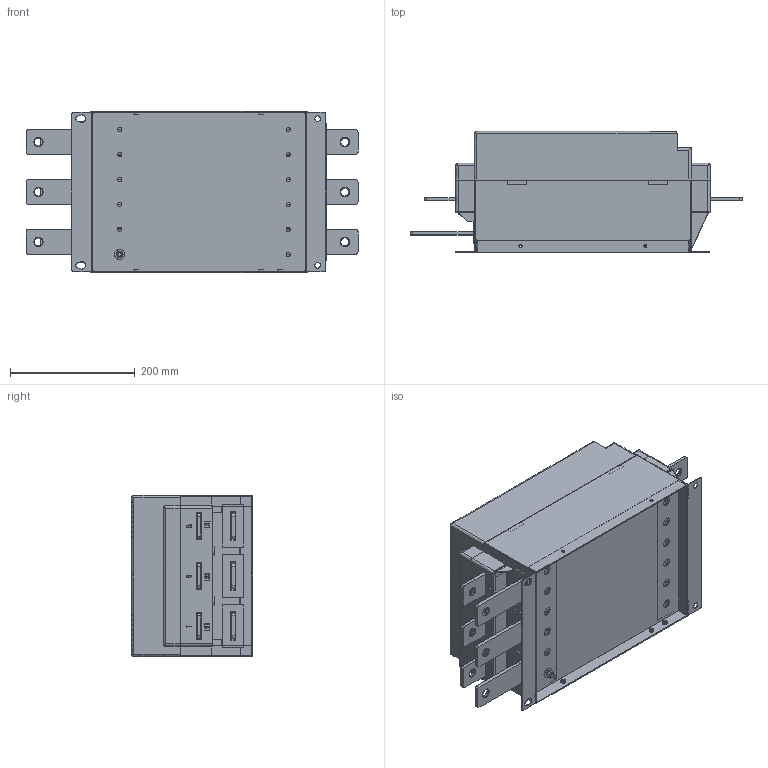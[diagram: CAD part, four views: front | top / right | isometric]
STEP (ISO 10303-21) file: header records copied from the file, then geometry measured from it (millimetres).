
FILE_DESCRIPTION (( 'STEP AP203' ), '1' );
FILE_NAME ('OptiCor S_75-200kWt.STEP', '2022-06-02T08:26:28', ( '' ), ( '' ), 'SwSTEP 2.0', 'SolidWorks 2018', '' );
FILE_SCHEMA (( 'CONFIG_CONTROL_DESIGN' ));
Length unit declared in the file: millimetre
Products named in the file (29): 8ZR.156.406垫片^OptiCor S_75-200kWt_OptiCor S_75-200kWt; 8ZR.711.302橈埽菜遠^OptiCor S_75-200kWt_OptiCor S_75-200kWt; 8ZR.069.201諷秶醱啣^OptiCor S_75-200kWt_OptiCor S_75-200kWt; 8ZR.043.302盓殤^OptiCor S_75-200kWt_OptiCor S_75-200kWt; OptiCor S_75-200kWt^OptiCor S_75-200kWt; 小垫圈^OptiCor S_75-200kWt_OptiCor S_75-200kWt; 8ZR.860.202梓齪^OptiCor S_75-200kWt_OptiCor S_75-200kWt; 8ZR.043.301盓殤^OptiCor S_75-200kWt_OptiCor S_75-200kWt; OptiCor S_75-200kWt; 苤蹟譫^OptiCor S_75-200kWt_OptiCor S_75-200kWt; 8ZR.864.201梓齪^OptiCor S_75-200kWt_OptiCor S_75-200kWt; 8ZR.160.304褒啣^OptiCor S_75-200kWt_OptiCor S_75-200kWt; 小弹性垫圈^OptiCor S_75-200kWt_OptiCor S_75-200kWt; 8ZR.864.202梓齪^OptiCor S_75-200kWt_OptiCor S_75-200kWt; 8ZR.160.301褒啣^OptiCor S_75-200kWt_OptiCor S_75-200kWt; 苤蹟佪^OptiCor S_75-200kWt_OptiCor S_75-200kWt; 8ZR.114.304盓傅璃^OptiCor S_75-200kWt_OptiCor S_75-200kWt; 8ZR.160.302褒啣^OptiCor S_75-200kWt_OptiCor S_75-200kWt; 8ZR.588.302絳萇啣^OptiCor S_75-200kWt_OptiCor S_75-200kWt; 8ZR.588.301絳萇啣^OptiCor S_75-200kWt_OptiCor S_75-200kWt; 8ZR.160.303褒啣^OptiCor S_75-200kWt_OptiCor S_75-200kWt; 5ZR.114.301盓傅璃^OptiCor S_75-200kWt_OptiCor S_75-200kWt; 8ZR.114.305盓傅璃^OptiCor S_75-200kWt_OptiCor S_75-200kWt; 8ZR.022.301菁釱^OptiCor S_75-200kWt_OptiCor S_75-200kWt; 8ZR.150.301.1耜啣^OptiCor S_75-200kWt_OptiCor S_75-200kWt; 5ZR.114.302盓傅璃^OptiCor S_75-200kWt_OptiCor S_75-200kWt; 8ZR.114.306盓傅璃^OptiCor S_75-200kWt_OptiCor S_75-200kWt; 8ZR.315.301¸Ç^OptiCor S_75-200kWt_OptiCor S_75-200kWt; 8ZR.150.301.2耜啣^OptiCor S_75-200kWt_OptiCor S_75-200kWt
Assembly tree (37 placements, depth 3):
  8ZR.860.202梓齪^OptiCor S_75-200kWt_OptiCor S_75-200kWt
  OptiCor S_75-200kWt
    OptiCor S_75-200kWt^OptiCor S_75-200kWt
      8ZR.150.301.1耜啣^OptiCor S_75-200kWt_OptiCor S_75-200kWt
      8ZR.150.301.2耜啣^OptiCor S_75-200kWt_OptiCor S_75-200kWt
      8ZR.043.302盓殤^OptiCor S_75-200kWt_OptiCor S_75-200kWt
      8ZR.043.301盓殤^OptiCor S_75-200kWt_OptiCor S_75-200kWt
      8ZR.160.304褒啣^OptiCor S_75-200kWt_OptiCor S_75-200kWt
      8ZR.160.301褒啣^OptiCor S_75-200kWt_OptiCor S_75-200kWt
      8ZR.160.302褒啣^OptiCor S_75-200kWt_OptiCor S_75-200kWt
      8ZR.160.303褒啣^OptiCor S_75-200kWt_OptiCor S_75-200kWt
      8ZR.022.301菁釱^OptiCor S_75-200kWt_OptiCor S_75-200kWt
      8ZR.315.301¸Ç^OptiCor S_75-200kWt_OptiCor S_75-200kWt
      8ZR.069.201諷秶醱啣^OptiCor S_75-200kWt_OptiCor S_75-200kWt
      8ZR.864.201梓齪^OptiCor S_75-200kWt_OptiCor S_75-200kWt
      8ZR.864.202梓齪^OptiCor S_75-200kWt_OptiCor S_75-200kWt
      8ZR.114.304盓傅璃^OptiCor S_75-200kWt_OptiCor S_75-200kWt  x2
      8ZR.588.301絳萇啣^OptiCor S_75-200kWt_OptiCor S_75-200kWt  x3
      8ZR.114.305盓傅璃^OptiCor S_75-200kWt_OptiCor S_75-200kWt  x3
      8ZR.114.306盓傅璃^OptiCor S_75-200kWt_OptiCor S_75-200kWt  x3
      8ZR.711.302橈埽菜遠^OptiCor S_75-200kWt_OptiCor S_75-200kWt
      小垫圈^OptiCor S_75-200kWt_OptiCor S_75-200kWt  x2
      苤蹟譫^OptiCor S_75-200kWt_OptiCor S_75-200kWt
      小弹性垫圈^OptiCor S_75-200kWt_OptiCor S_75-200kWt
      苤蹟佪^OptiCor S_75-200kWt_OptiCor S_75-200kWt
      8ZR.588.302絳萇啣^OptiCor S_75-200kWt_OptiCor S_75-200kWt  x3
      5ZR.114.301盓傅璃^OptiCor S_75-200kWt_OptiCor S_75-200kWt
      5ZR.114.302盓傅璃^OptiCor S_75-200kWt_OptiCor S_75-200kWt
      8ZR.156.406垫片^OptiCor S_75-200kWt_OptiCor S_75-200kWt
Bounding box: 532 x 194 x 258 mm (x, y, z)
Volume: 1838942.4 mm3; surface area: 1537342.7 mm2
Topology: 37 solids, 37 shells, 2426 faces, 6816 edges, 4544 vertices
Faces by surface type: bspline 2426
Entity records: 90965 total; most frequent: CARTESIAN_POINT 53566, ORIENTED_EDGE 11264, EDGE_CURVE 5632, B_SPLINE_CURVE_WITH_KNOTS 5067, VERTEX_POINT 3792, EDGE_LOOP 2368, FACE_OUTER_BOUND 1980, ADVANCED_FACE 1980
